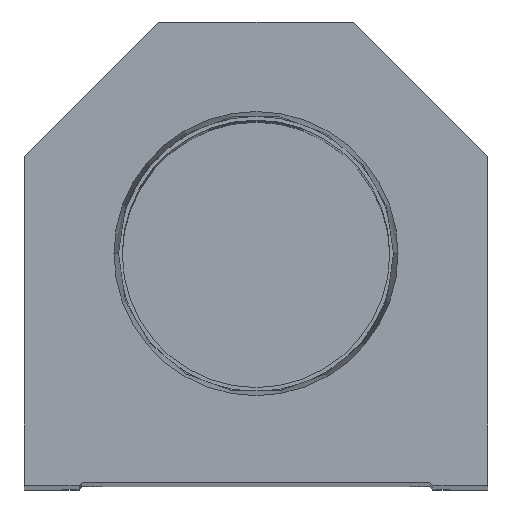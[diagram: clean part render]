
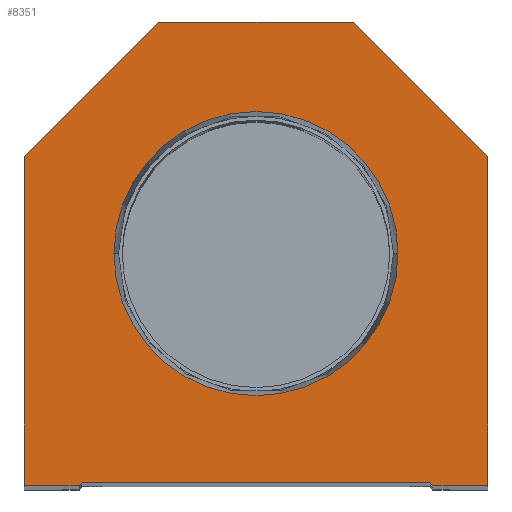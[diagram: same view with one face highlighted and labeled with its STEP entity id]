
A CAD part, top view. The second image highlights one B-rep face of the part: STEP entity #8351.
In plain terms, the highlighted planar face has unit normal (0, 0, 1).
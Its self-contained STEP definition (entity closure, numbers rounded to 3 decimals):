
#15 = CARTESIAN_POINT ( 'NONE',  ( -29.1, 0., 0. ) ) ;
#145 = EDGE_CURVE ( 'NONE', #3750, #15567, #16873, .T. ) ;
#237 = EDGE_CURVE ( 'NONE', #11225, #10561, #10245, .T. ) ;
#249 = DIRECTION ( 'NONE',  ( 0.707, -0.707, 0. ) ) ;
#297 = VECTOR ( 'NONE', #2758, 1000. ) ;
#328 = CARTESIAN_POINT ( 'NONE',  ( 28.6, 0.5, 0. ) ) ;
#390 = CARTESIAN_POINT ( 'NONE',  ( -14.55, 14.55, 0. ) ) ;
#485 = EDGE_CURVE ( 'NONE', #14475, #4585, #13760, .T. ) ;
#921 = DIRECTION ( 'NONE',  ( 0., 1., 0. ) ) ;
#1481 = DIRECTION ( 'NONE',  ( 1., 0., 0. ) ) ;
#1604 = EDGE_LOOP ( 'NONE', ( #12267, #7902 ) ) ;
#1882 = CARTESIAN_POINT ( 'NONE',  ( 28.6, 0., 0. ) ) ;
#1892 = LINE ( 'NONE', #3170, #11527 ) ;
#2031 = VERTEX_POINT ( 'NONE', #11831 ) ;
#2046 = DIRECTION ( 'NONE',  ( 1., 0., 0. ) ) ;
#2186 = CARTESIAN_POINT ( 'NONE',  ( 0., 38.1, 0. ) ) ;
#2306 = CARTESIAN_POINT ( 'NONE',  ( 38.1, 0., 0. ) ) ;
#2758 = DIRECTION ( 'NONE',  ( 0.707, 0.707, 0. ) ) ;
#2878 = LINE ( 'NONE', #14574, #13529 ) ;
#3035 = EDGE_CURVE ( 'NONE', #17486, #2031, #2878, .T. ) ;
#3069 = DIRECTION ( 'NONE',  ( -0.707, 0.707, 0. ) ) ;
#3170 = CARTESIAN_POINT ( 'NONE',  ( -38.1, 0., 0. ) ) ;
#3369 = CARTESIAN_POINT ( 'NONE',  ( 38.1, 0., 0. ) ) ;
#3399 = ORIENTED_EDGE ( 'NONE', *, *, #237, .T. ) ;
#3523 = CARTESIAN_POINT ( 'NONE',  ( 23.374, 38.1, 0. ) ) ;
#3595 = EDGE_CURVE ( 'NONE', #10561, #3780, #7668, .T. ) ;
#3750 = VERTEX_POINT ( 'NONE', #13425 ) ;
#3752 = DIRECTION ( 'NONE',  ( 1., 0., 0. ) ) ;
#3780 = VERTEX_POINT ( 'NONE', #16608 ) ;
#3828 = ORIENTED_EDGE ( 'NONE', *, *, #145, .T. ) ;
#3930 = DIRECTION ( 'NONE',  ( -0.707, -0.707, 0. ) ) ;
#3979 = VECTOR ( 'NONE', #4601, 1000. ) ;
#4572 = FACE_OUTER_BOUND ( 'NONE', #8631, .T. ) ;
#4585 = VERTEX_POINT ( 'NONE', #15 ) ;
#4601 = DIRECTION ( 'NONE',  ( -1., 0., 0. ) ) ;
#4620 = ORIENTED_EDGE ( 'NONE', *, *, #8233, .T. ) ;
#4947 = CARTESIAN_POINT ( 'NONE',  ( -23.374, 38.1, 0. ) ) ;
#5182 = CARTESIAN_POINT ( 'NONE',  ( -38.1, 54.1, 0. ) ) ;
#5336 = VECTOR ( 'NONE', #921, 1000. ) ;
#5738 = EDGE_CURVE ( 'NONE', #9678, #12192, #17981, .T. ) ;
#6919 = CARTESIAN_POINT ( 'NONE',  ( -28.6, 0.5, 0. ) ) ;
#6977 = EDGE_CURVE ( 'NONE', #12192, #9678, #15033, .T. ) ;
#7283 = ORIENTED_EDGE ( 'NONE', *, *, #485, .T. ) ;
#7373 = CARTESIAN_POINT ( 'NONE',  ( -38.1, 54.1, 0. ) ) ;
#7407 = CARTESIAN_POINT ( 'NONE',  ( -28.6, 0.5, 0. ) ) ;
#7593 = ORIENTED_EDGE ( 'NONE', *, *, #3035, .T. ) ;
#7668 = LINE ( 'NONE', #19175, #17905 ) ;
#7806 = DIRECTION ( 'NONE',  ( 1., 0., 0. ) ) ;
#7902 = ORIENTED_EDGE ( 'NONE', *, *, #5738, .F. ) ;
#8149 = VECTOR ( 'NONE', #1481, 1000. ) ;
#8233 = EDGE_CURVE ( 'NONE', #4585, #11225, #15098, .T. ) ;
#8351 = ADVANCED_FACE ( 'NONE', ( #16174, #4572 ), #14802, .T. ) ;
#8631 = EDGE_LOOP ( 'NONE', ( #7283, #4620, #3399, #16340, #18203, #16270, #7593, #11930, #3828, #15125 ) ) ;
#9078 = VECTOR ( 'NONE', #3930, 1000. ) ;
#9217 = AXIS2_PLACEMENT_3D ( 'NONE', #14731, #10526, #16472 ) ;
#9595 = DIRECTION ( 'NONE',  ( 0., 0., 1. ) ) ;
#9678 = VERTEX_POINT ( 'NONE', #4947 ) ;
#10237 = CARTESIAN_POINT ( 'NONE',  ( 0., 0., 0. ) ) ;
#10245 = LINE ( 'NONE', #7407, #8149 ) ;
#10526 = DIRECTION ( 'NONE',  ( 0., 0., 1. ) ) ;
#10553 = LINE ( 'NONE', #1882, #11827 ) ;
#10561 = VERTEX_POINT ( 'NONE', #328 ) ;
#10570 = AXIS2_PLACEMENT_3D ( 'NONE', #10237, #16464, #16068 ) ;
#10603 = VERTEX_POINT ( 'NONE', #3369 ) ;
#10689 = EDGE_CURVE ( 'NONE', #10603, #17486, #15531, .T. ) ;
#10977 = EDGE_CURVE ( 'NONE', #3780, #10603, #10553, .T. ) ;
#11225 = VERTEX_POINT ( 'NONE', #6919 ) ;
#11527 = VECTOR ( 'NONE', #13597, 1000. ) ;
#11827 = VECTOR ( 'NONE', #7806, 1000. ) ;
#11831 = CARTESIAN_POINT ( 'NONE',  ( 16., 76.2, 0. ) ) ;
#11863 = LINE ( 'NONE', #17576, #3979 ) ;
#11930 = ORIENTED_EDGE ( 'NONE', *, *, #18170, .T. ) ;
#12192 = VERTEX_POINT ( 'NONE', #3523 ) ;
#12267 = ORIENTED_EDGE ( 'NONE', *, *, #6977, .F. ) ;
#12801 = VECTOR ( 'NONE', #2046, 1000. ) ;
#13425 = CARTESIAN_POINT ( 'NONE',  ( -16., 76.2, 0. ) ) ;
#13529 = VECTOR ( 'NONE', #3069, 1000. ) ;
#13597 = DIRECTION ( 'NONE',  ( 0., -1., 0. ) ) ;
#13760 = LINE ( 'NONE', #15286, #12801 ) ;
#13914 = CARTESIAN_POINT ( 'NONE',  ( -38.1, 0., 0. ) ) ;
#14475 = VERTEX_POINT ( 'NONE', #13914 ) ;
#14574 = CARTESIAN_POINT ( 'NONE',  ( 38.1, 54.1, 0. ) ) ;
#14731 = CARTESIAN_POINT ( 'NONE',  ( 0., 38.1, 0. ) ) ;
#14802 = PLANE ( 'NONE',  #10570 ) ;
#15033 = CIRCLE ( 'NONE', #9217, 23.374 ) ;
#15098 = LINE ( 'NONE', #390, #297 ) ;
#15125 = ORIENTED_EDGE ( 'NONE', *, *, #16119, .T. ) ;
#15286 = CARTESIAN_POINT ( 'NONE',  ( -28.6, 0., 0. ) ) ;
#15531 = LINE ( 'NONE', #2306, #5336 ) ;
#15567 = VERTEX_POINT ( 'NONE', #7373 ) ;
#16068 = DIRECTION ( 'NONE',  ( 1., 0., 0. ) ) ;
#16119 = EDGE_CURVE ( 'NONE', #15567, #14475, #1892, .T. ) ;
#16174 = FACE_BOUND ( 'NONE', #1604, .T. ) ;
#16270 = ORIENTED_EDGE ( 'NONE', *, *, #10689, .T. ) ;
#16340 = ORIENTED_EDGE ( 'NONE', *, *, #3595, .T. ) ;
#16414 = AXIS2_PLACEMENT_3D ( 'NONE', #2186, #9595, #3752 ) ;
#16464 = DIRECTION ( 'NONE',  ( 0., 0., 1. ) ) ;
#16472 = DIRECTION ( 'NONE',  ( 1., 0., 0. ) ) ;
#16608 = CARTESIAN_POINT ( 'NONE',  ( 29.1, 0., 0. ) ) ;
#16873 = LINE ( 'NONE', #5182, #9078 ) ;
#16900 = CARTESIAN_POINT ( 'NONE',  ( 38.1, 54.1, 0. ) ) ;
#17486 = VERTEX_POINT ( 'NONE', #16900 ) ;
#17576 = CARTESIAN_POINT ( 'NONE',  ( 16., 76.2, 0. ) ) ;
#17905 = VECTOR ( 'NONE', #249, 1000. ) ;
#17981 = CIRCLE ( 'NONE', #16414, 23.374 ) ;
#18170 = EDGE_CURVE ( 'NONE', #2031, #3750, #11863, .T. ) ;
#18203 = ORIENTED_EDGE ( 'NONE', *, *, #10977, .T. ) ;
#19175 = CARTESIAN_POINT ( 'NONE',  ( 14.55, 14.55, 0. ) ) ;
